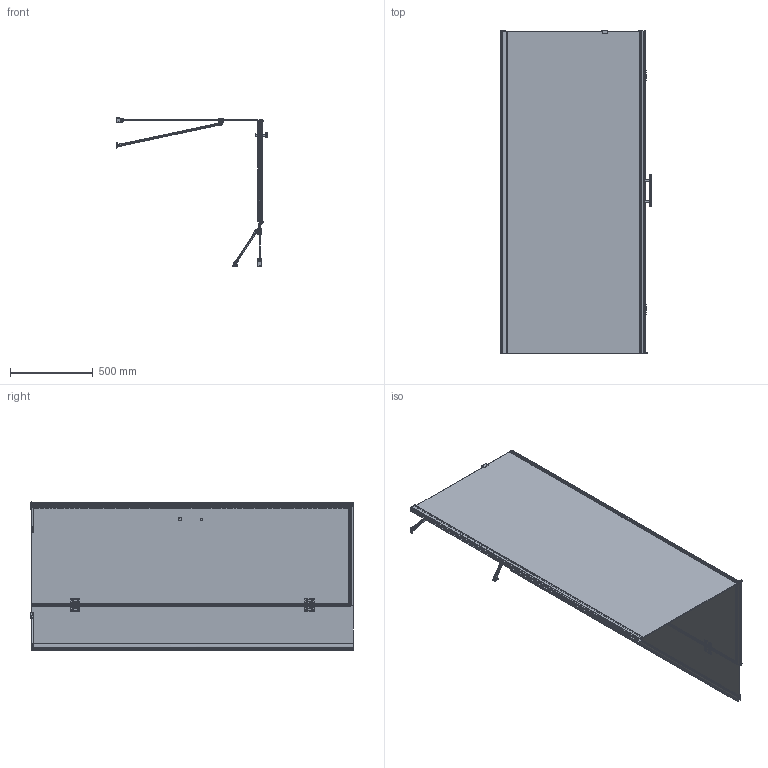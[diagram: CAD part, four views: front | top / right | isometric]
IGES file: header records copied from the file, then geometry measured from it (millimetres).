
Global section: file name: 33f76248-3731-48fb-ada7-9e1bd918732c; native system: unknown; preprocessor: unknown; author: unknown; organization: unknown; date: 20201021.071141; units: millimetre
Bounding box: 920.23 x 1955.35 x 896.88 mm (x, y, z)
Volume: 20684467.5 mm3; surface area: 8763547.9 mm2
Topology: 64 solids, 64 shells, 3394 faces, 8774 edges, 5492 vertices
Faces by surface type: bspline 3393, offset 1
